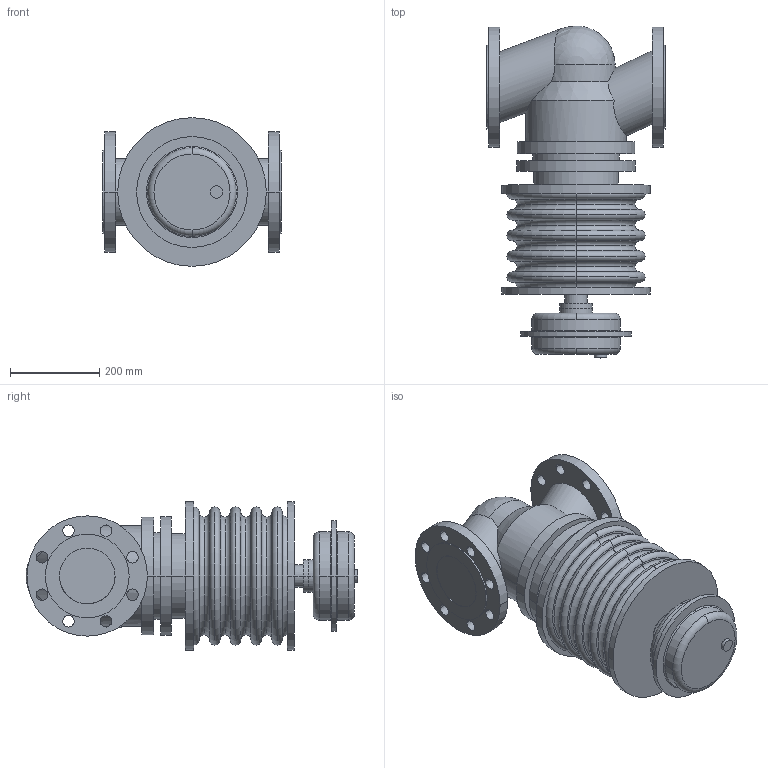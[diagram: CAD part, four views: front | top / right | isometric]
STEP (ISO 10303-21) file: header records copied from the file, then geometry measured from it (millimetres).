
FILE_DESCRIPTION( ( '' ), '1' );
FILE_NAME( 'F:/DE-SHS/TB/OR/04-Sonstiges/daten/files_3d/PREDU/PREDU-PN25-DMA250/c000005371.stp', '2014-06-03T11:16:34', ( '' ), ( '' ), ' ', ' ', ' ' );
FILE_SCHEMA( ( 'CONFIG_CONTROL_DESIGN' ) );
Length unit declared in the file: millimetre
Products named in the file (2): 1; 2
Bounding box: 400 x 745.56 x 334 mm (x, y, z)
Volume: 37312341.2 mm3; surface area: 1316558.3 mm2
Topology: 2 solids, 2 shells, 185 faces, 468 edges, 308 vertices
Faces by surface type: cylinder 80, torus 44, plane 40, cone 20, sphere 1
Entity records: 6418 total; most frequent: CARTESIAN_POINT 1518, DIRECTION 1147, ORIENTED_EDGE 932, AXIS2_PLACEMENT_3D 508, EDGE_CURVE 466, CIRCLE 315, VERTEX_POINT 308, EDGE_LOOP 240
